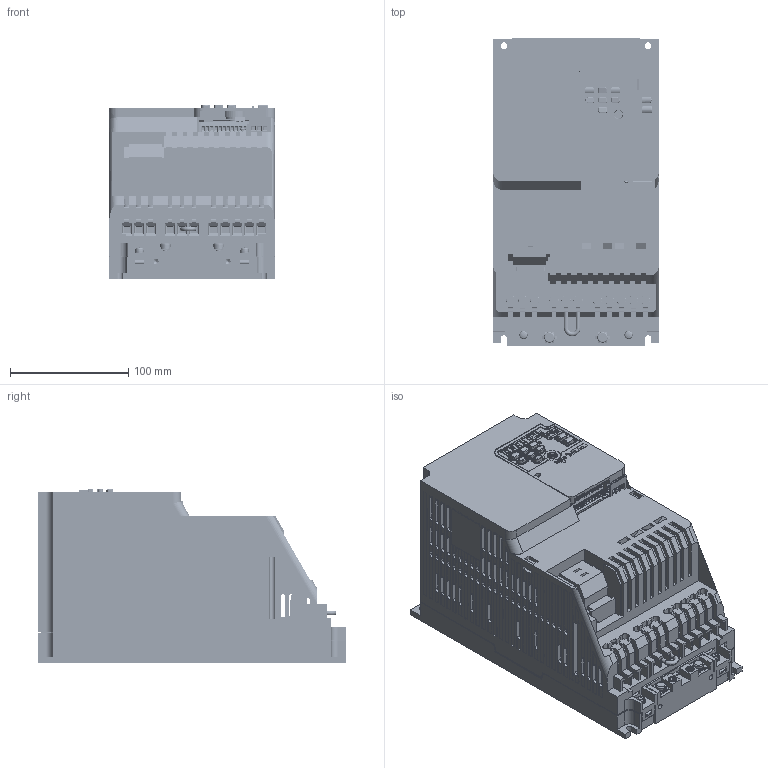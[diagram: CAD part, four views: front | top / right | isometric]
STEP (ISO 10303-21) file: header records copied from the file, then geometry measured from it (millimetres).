
FILE_DESCRIPTION((''),'2;1');
FILE_NAME('CIPR-GA50X4023AJXX_ASM','2021-05-20T',('ktc_001'),('YASKAWA ELECTRIC CORCORATION'),'PRO/ENGINEER BY PARAMETRIC TECHNOLOGY CORPORATION, 2017170','PRO/ENGINEER BY PARAMETRIC TECHNOLOGY CORPORATION, 2017170','');
FILE_SCHEMA(('AUTOMOTIVE_DESIGN { 1 0 10303 214 1 1 1 1 }'));
Products named in the file (11): CIPR-GA50_4023_STD_JP20_BODY; CIPR-GA50_ALL_TB; CIPR-GA50_KEYPAD; CIPR-GA50_USB_COVER; CIPR-GA50_FP; CIPR-GA50_SCREW_GND_M5X10; CIPR-GA50_SCREW_M4X12; CIPR-GA50_COMMON_1; CIPR-GA50_COMMON_2; CIPR-GA50_COMMON_3; CIPR-GA50X4023AJXX_ASM
Assembly tree (12 placements, depth 2):
  CIPR-GA50X4023AJXX_ASM
    CIPR-GA50_4023_STD_JP20_BODY
    CIPR-GA50_ALL_TB
    CIPR-GA50_KEYPAD
    CIPR-GA50_USB_COVER
    CIPR-GA50_FP
    CIPR-GA50_SCREW_GND_M5X10  x2
    CIPR-GA50_SCREW_M4X12  x2
    CIPR-GA50_COMMON_1
    CIPR-GA50_COMMON_2
    CIPR-GA50_COMMON_3
Bounding box: 140 x 260 x 147.75 mm (x, y, z)
Volume: 3777118.4 mm3; surface area: 336592.2 mm2
Topology: 16 solids, 16 shells, 7740 faces, 20841 edges, 13612 vertices
Faces by surface type: plane 5947, cylinder 1612, bspline 58, cone 55, torus 54, sphere 14
Entity records: 298061 total; most frequent: CARTESIAN_POINT 46803, ORIENTED_EDGE 41130, DIRECTION 38956, EDGE_CURVE 20565, VECTOR 16766, LINE 16766, VERTEX_POINT 13467, AXIS2_PLACEMENT_3D 11095
